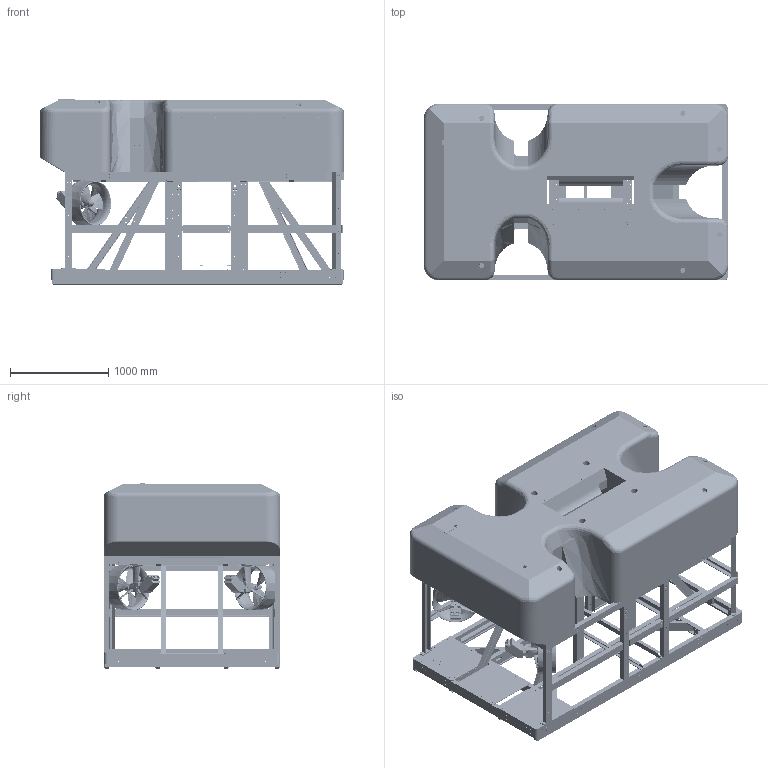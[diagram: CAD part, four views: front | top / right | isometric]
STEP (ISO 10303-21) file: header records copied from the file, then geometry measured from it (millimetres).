
FILE_DESCRIPTION((''),'2;1');
FILE_NAME('K:\Drawings\AB\AB4000\AB4239\MBARI models\MBARI ROV #1.stp','2007-06-08T11:16:36',('robertg'),(''),'Autodesk Inventor 10','Autodesk Inventor 10','');
FILE_SCHEMA(('AUTOMOTIVE_DESIGN { 1 0 10303 214 1 1 1 1 }'));
Length unit declared in the file: millimetre
Products named in the file (5): MBARI ROV #1; buoyancy derived; frame leg; HTE 380_Cust; chassis derived_1
Assembly tree (5 placements, depth 2):
  MBARI ROV #1
    buoyancy derived
    frame leg
    HTE 380_Cust  x2
    chassis derived_1
Bounding box: 3100 x 1800 x 1900 mm (x, y, z)
Volume: 3399023322.9 mm3; surface area: 51307637.1 mm2
Topology: 26 solids, 48 shells, 4554 faces, 12524 edges, 8175 vertices
Faces by surface type: plane 2205, bspline 1442, cylinder 739, cone 104, torus 64
Full cylindrical faces by diameter (mm): 3 x2, 4.6 x8, 6 x2, 7.9 x16, 8.376 x7, 9 x14, 10 x10, 10.106 x2, 11 x126, 12.5 x1, 13 x27, 16 x32, 18 x8, 18.1 x2, 20 x6, 20.32 x4, 21 x24, 22 x9, 24 x24, 31.6 x1, 35 x2, 38.1 x1, 45 x2, 45.72 x4, 47 x2, 50 x2, 55 x2, 58.42 x4, 59 x2, 63.5 x4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
Entity records: 148704 total; most frequent: CARTESIAN_POINT 55732, ORIENTED_EDGE 18210, DIRECTION 17497, EDGE_CURVE 9105, EDGE_LOOP 6862, VERTEX_POINT 6520, AXIS2_PLACEMENT_3D 5974, VECTOR 5549
